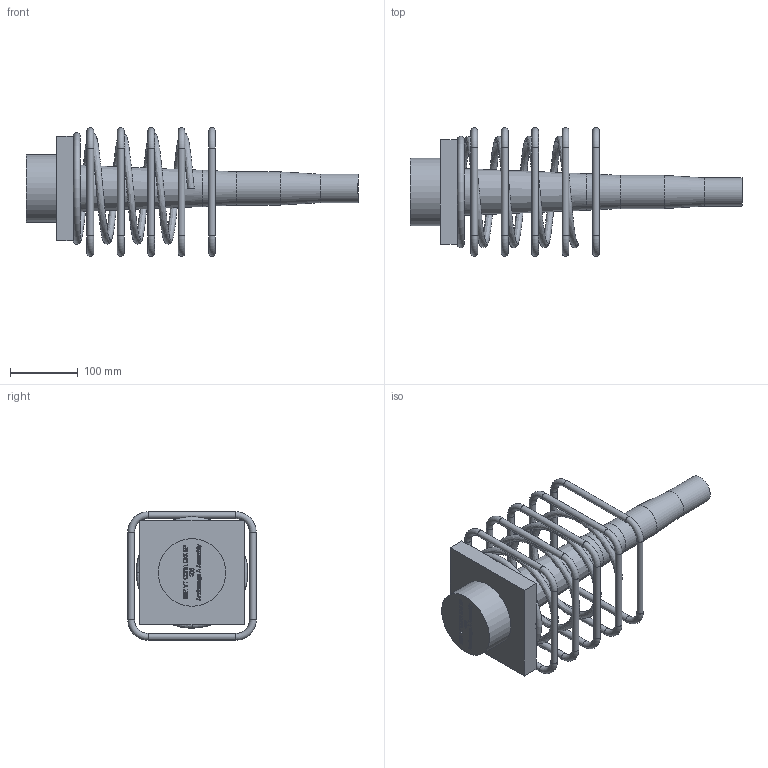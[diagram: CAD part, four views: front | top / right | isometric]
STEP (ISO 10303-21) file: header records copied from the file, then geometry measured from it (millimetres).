
FILE_DESCRIPTION(/* description */ (''),/* implementation_level */ '2;1');
FILE_NAME(/* name */ 'Z:\04 Publications\05 Give-out\BBR\6_3D_Models\BBR VT CONA CMI\BBR VT CONA CMI SP\00406\BBR VT CONA CMI SP 406_Anchorage A Assembly_CS-34,28.stp',/* time_stamp */ '2017-05-05T13:38:29+02:00',/* author */ ('IP'),/* organization */ (''),/* preprocessor_version */ 'ST-DEVELOPER v16.1',/* originating_system */ 'Autodesk Inventor 2016',/* authorisation */ '');
FILE_SCHEMA (('AUTOMOTIVE_DESIGN { 1 0 10303 214 3 1 1 }'));
Length unit declared in the file: millimetre
Products named in the file (1): BBR VT CONA CMI SP 406_Anchorage A Assembly_CS-34,28
Bounding box: 491.1 x 190 x 190 mm (x, y, z)
Volume: 2363214.6 mm3; surface area: 319930.5 mm2
Topology: 3 solids, 3 shells, 644 faces, 1718 edges, 1129 vertices
Faces by surface type: plane 315, bspline 282, cylinder 23, torus 23, cone 1
Full cylindrical faces by diameter (mm): 10 x20, 42 x1, 49 x1, 100 x1
Entity records: 23750 total; most frequent: CARTESIAN_POINT 9111, ORIENTED_EDGE 3350, DIRECTION 1879, EDGE_CURVE 1672, VERTEX_POINT 1129, LINE 1041, VECTOR 1041, EDGE_LOOP 750
